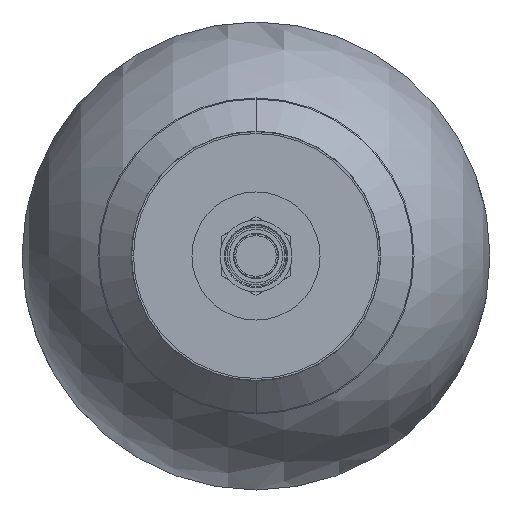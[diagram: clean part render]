
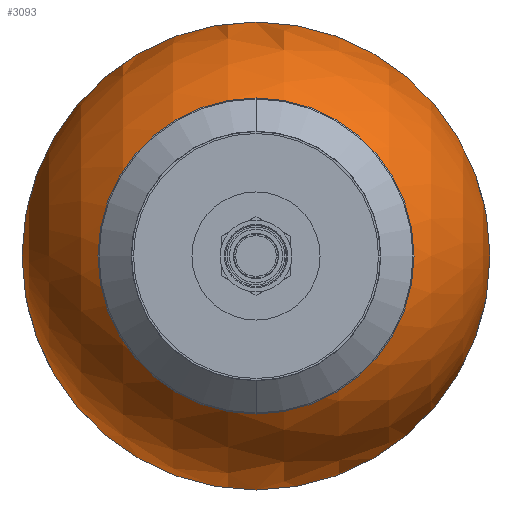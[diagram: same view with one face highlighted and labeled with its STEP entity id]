
A CAD part, front view. The second image highlights one B-rep face of the part: STEP entity #3093.
In plain terms, the highlighted spherical face has radius 109.55 mm.
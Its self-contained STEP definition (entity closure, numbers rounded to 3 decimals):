
#2568=CARTESIAN_POINT('',(-140.659,63.5,0.0));
#2569=VERTEX_POINT('',#2568);
#2584=CARTESIAN_POINT('',(-140.659,-155.6,0.));
#2585=VERTEX_POINT('',#2584);
#2592=CARTESIAN_POINT('',(-140.659,-46.05,0.0));
#2593=DIRECTION('',(1.0,0.0,0.0));
#2594=DIRECTION('',(0.0,1.0,0.0));
#2595=AXIS2_PLACEMENT_3D('',#2592,#2593,#2594);
#2596=CIRCLE('',#2595,109.55);
#2597=EDGE_CURVE('',#2585,#2569,#2596,.T.);
#2927=CARTESIAN_POINT('',(-140.659,-46.05,0.0));
#2928=DIRECTION('',(1.0,0.0,0.0));
#2929=DIRECTION('',(0.0,1.0,0.0));
#2930=AXIS2_PLACEMENT_3D('',#2927,#2928,#2929);
#2931=CIRCLE('',#2930,109.55);
#2932=EDGE_CURVE('',#2569,#2585,#2931,.T.);
#3065=CARTESIAN_POINT('',(-246.021,-16.05,0.0));
#3066=VERTEX_POINT('',#3065);
#3067=CARTESIAN_POINT('',(-246.021,-46.05,0.0));
#3068=DIRECTION('',(1.0,0.0,0.0));
#3069=DIRECTION('',(0.0,1.0,0.0));
#3070=AXIS2_PLACEMENT_3D('',#3067,#3068,#3069);
#3071=CIRCLE('',#3070,30.0);
#3072=EDGE_CURVE('',#3066,#3066,#3071,.T.);
#3081=CARTESIAN_POINT('',(-140.659,-46.05,0.0));
#3082=DIRECTION('',(0.0,0.0,1.0));
#3083=DIRECTION('',(1.0,0.0,0.0));
#3084=AXIS2_PLACEMENT_3D('',#3081,#3082,#3083);
#3085=SPHERICAL_SURFACE('',#3084,109.55);
#3086=ORIENTED_EDGE('',*,*,#2932,.F.);
#3087=ORIENTED_EDGE('',*,*,#2597,.F.);
#3088=EDGE_LOOP('',(#3086,#3087));
#3089=FACE_OUTER_BOUND('',#3088,.T.);
#3090=ORIENTED_EDGE('',*,*,#3072,.T.);
#3091=EDGE_LOOP('',(#3090));
#3092=FACE_BOUND('',#3091,.T.);
#3093=ADVANCED_FACE('',(#3089,#3092),#3085,.T.);
